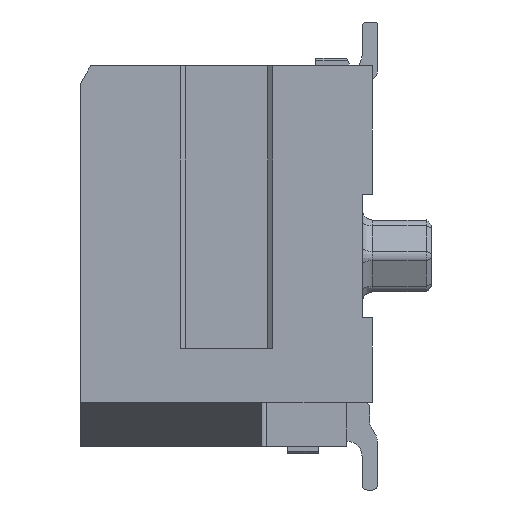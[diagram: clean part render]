
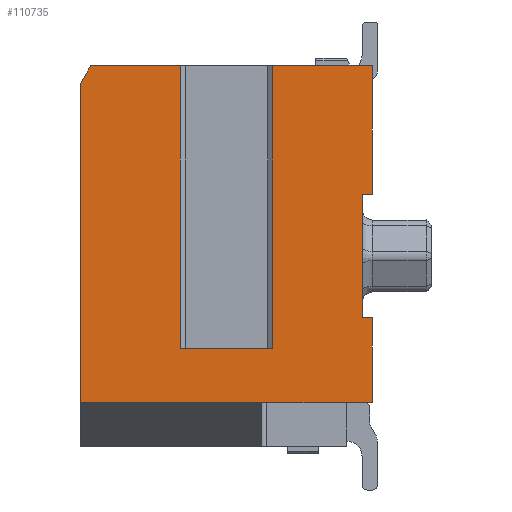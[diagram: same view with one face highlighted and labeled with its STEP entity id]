
A CAD part, left-side view. The second image highlights one B-rep face of the part: STEP entity #110735.
In plain terms, the highlighted planar face has unit normal (-1, 0, 0).
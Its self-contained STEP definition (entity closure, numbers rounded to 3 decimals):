
#31182 = AXIS2_PLACEMENT_3D ( 'NONE', #43996, #43998, #44000 ) ;
#37553 = CARTESIAN_POINT ( 'NONE',  ( -20.309, -1.508, 0.85 ) ) ;
#40349 = CARTESIAN_POINT ( 'NONE',  ( -20.309, -3.658, 0.85 ) ) ;
#43205 = VECTOR ( 'NONE', #50122, 1000. ) ;
#43899 = PLANE ( 'NONE',  #31182 ) ;
#43955 = FACE_OUTER_BOUND ( 'NONE', #81181, .T. ) ;
#43996 = CARTESIAN_POINT ( 'NONE',  ( -20.309, 2.017, 7.4 ) ) ;
#43998 = DIRECTION ( 'NONE',  ( 1., 0., 0. ) ) ;
#44000 = DIRECTION ( 'NONE',  ( 0., 0., -1. ) ) ;
#50089 = CARTESIAN_POINT ( 'NONE',  ( -20.309, 0.117, 0.85 ) ) ;
#50114 = LINE ( 'NONE', #50089, #43205 ) ;
#50122 = DIRECTION ( 'NONE',  ( 0., 1., 0. ) ) ;
#51914 = VECTOR ( 'NONE', #56433, 1000. ) ;
#52815 = VECTOR ( 'NONE', #58807, 1000. ) ;
#52856 = VECTOR ( 'NONE', #58950, 1000. ) ;
#52892 = VECTOR ( 'NONE', #59127, 1000. ) ;
#52896 = VECTOR ( 'NONE', #59144, 1000. ) ;
#52898 = VECTOR ( 'NONE', #59171, 1000. ) ;
#52900 = VECTOR ( 'NONE', #59164, 1000. ) ;
#52902 = VECTOR ( 'NONE', #59189, 1000. ) ;
#52903 = VECTOR ( 'NONE', #59181, 1000. ) ;
#55470 = VERTEX_POINT ( 'NONE', #40349 ) ;
#55805 = VERTEX_POINT ( 'NONE', #37553 ) ;
#56417 = LINE ( 'NONE', #56431, #51914 ) ;
#56431 = CARTESIAN_POINT ( 'NONE',  ( -20.309, -3.458, 7.4 ) ) ;
#56433 = DIRECTION ( 'NONE',  ( 0., 0., -1. ) ) ;
#58801 = LINE ( 'NONE', #58804, #52815 ) ;
#58804 = CARTESIAN_POINT ( 'NONE',  ( -20.309, -3.658, 4.9 ) ) ;
#58807 = DIRECTION ( 'NONE',  ( 0., -1., 0. ) ) ;
#58944 = LINE ( 'NONE', #58947, #52856 ) ;
#58947 = CARTESIAN_POINT ( 'NONE',  ( -20.309, -3.658, 2.5 ) ) ;
#58950 = DIRECTION ( 'NONE',  ( 0., 1., 0. ) ) ;
#59121 = LINE ( 'NONE', #59124, #52892 ) ;
#59122 = LINE ( 'NONE', #59166, #52898 ) ;
#59124 = CARTESIAN_POINT ( 'NONE',  ( -20.309, 0.079, 7.4 ) ) ;
#59127 = DIRECTION ( 'NONE',  ( 0., 0., -1. ) ) ;
#59137 = LINE ( 'NONE', #59141, #52896 ) ;
#59139 = LINE ( 'NONE', #59184, #52902 ) ;
#59141 = CARTESIAN_POINT ( 'NONE',  ( -20.309, 2.017, 1.9 ) ) ;
#59144 = DIRECTION ( 'NONE',  ( 0., -1., 0. ) ) ;
#59156 = LINE ( 'NONE', #59161, #52900 ) ;
#59161 = CARTESIAN_POINT ( 'NONE',  ( -20.309, -1.721, 7.4 ) ) ;
#59164 = DIRECTION ( 'NONE',  ( 0., 0., 1. ) ) ;
#59166 = CARTESIAN_POINT ( 'NONE',  ( -20.309, -3.658, 7.4 ) ) ;
#59171 = DIRECTION ( 'NONE',  ( 0., 0., -1. ) ) ;
#59174 = LINE ( 'NONE', #59179, #52903 ) ;
#59179 = CARTESIAN_POINT ( 'NONE',  ( -20.309, -3.658, 7.4 ) ) ;
#59181 = DIRECTION ( 'NONE',  ( 0., 0., -1. ) ) ;
#59184 = CARTESIAN_POINT ( 'NONE',  ( -20.309, 2.017, 0.85 ) ) ;
#59189 = DIRECTION ( 'NONE',  ( 0., 1., 0. ) ) ;
#69720 = LINE ( 'NONE', #69754, #89682 ) ;
#69737 = LINE ( 'NONE', #69739, #89681 ) ;
#69739 = CARTESIAN_POINT ( 'NONE',  ( -20.309, 2.017, 7.4 ) ) ;
#69741 = DIRECTION ( 'NONE',  ( 0., 0., -1. ) ) ;
#69754 = CARTESIAN_POINT ( 'NONE',  ( -20.309, 1.817, 7.4 ) ) ;
#69757 = DIRECTION ( 'NONE',  ( 0., 0.496, -0.868 ) ) ;
#69856 = LINE ( 'NONE', #69857, #89701 ) ;
#69857 = CARTESIAN_POINT ( 'NONE',  ( -20.309, 2.017, 7.4 ) ) ;
#69859 = DIRECTION ( 'NONE',  ( 0., -1., 0. ) ) ;
#69878 = LINE ( 'NONE', #69880, #89705 ) ;
#69880 = CARTESIAN_POINT ( 'NONE',  ( -20.309, 2.017, 7.4 ) ) ;
#69882 = DIRECTION ( 'NONE',  ( 0., -1., 0. ) ) ;
#79729 = CARTESIAN_POINT ( 'NONE',  ( -20.309, 2.017, 7.05 ) ) ;
#79848 = CARTESIAN_POINT ( 'NONE',  ( -20.309, -1.721, 7.4 ) ) ;
#79903 = CARTESIAN_POINT ( 'NONE',  ( -20.309, 1.817, 7.4 ) ) ;
#80123 = CARTESIAN_POINT ( 'NONE',  ( -20.309, 0.079, 7.4 ) ) ;
#80860 = CARTESIAN_POINT ( 'NONE',  ( -20.309, -3.658, 2.5 ) ) ;
#81181 = EDGE_LOOP ( 'NONE', ( #99333, #99335, #99336, #99338, #99340, #99342, #99343, #99345, #99347, #99349, #99350, #99352, #99354, #99356 ) ) ;
#81206 = CARTESIAN_POINT ( 'NONE',  ( -20.309, -3.458, 4.9 ) ) ;
#81608 = CARTESIAN_POINT ( 'NONE',  ( -20.309, -3.458, 2.5 ) ) ;
#84725 = VERTEX_POINT ( 'NONE', #123991 ) ;
#84797 = VERTEX_POINT ( 'NONE', #124034 ) ;
#85422 = VERTEX_POINT ( 'NONE', #124398 ) ;
#85555 = VERTEX_POINT ( 'NONE', #124476 ) ;
#86154 = VERTEX_POINT ( 'NONE', #124825 ) ;
#86493 = VERTEX_POINT ( 'NONE', #79729 ) ;
#86668 = VERTEX_POINT ( 'NONE', #79848 ) ;
#86718 = VERTEX_POINT ( 'NONE', #79903 ) ;
#86929 = VERTEX_POINT ( 'NONE', #80123 ) ;
#89681 = VECTOR ( 'NONE', #69741, 1000. ) ;
#89682 = VECTOR ( 'NONE', #69757, 1000. ) ;
#89701 = VECTOR ( 'NONE', #69859, 1000. ) ;
#89705 = VECTOR ( 'NONE', #69882, 1000. ) ;
#92030 = VERTEX_POINT ( 'NONE', #80860 ) ;
#92151 = VERTEX_POINT ( 'NONE', #81206 ) ;
#92325 = VERTEX_POINT ( 'NONE', #81608 ) ;
#99333 = ORIENTED_EDGE ( 'NONE', *, *, #99993, .T. ) ;
#99335 = ORIENTED_EDGE ( 'NONE', *, *, #99990, .T. ) ;
#99336 = ORIENTED_EDGE ( 'NONE', *, *, #114868, .F. ) ;
#99338 = ORIENTED_EDGE ( 'NONE', *, *, #103815, .F. ) ;
#99340 = ORIENTED_EDGE ( 'NONE', *, *, #114867, .F. ) ;
#99342 = ORIENTED_EDGE ( 'NONE', *, *, #114841, .T. ) ;
#99343 = ORIENTED_EDGE ( 'NONE', *, *, #114448, .F. ) ;
#99345 = ORIENTED_EDGE ( 'NONE', *, *, #114826, .T. ) ;
#99347 = ORIENTED_EDGE ( 'NONE', *, *, #114866, .F. ) ;
#99349 = ORIENTED_EDGE ( 'NONE', *, *, #100014, .F. ) ;
#99350 = ORIENTED_EDGE ( 'NONE', *, *, #114865, .F. ) ;
#99352 = ORIENTED_EDGE ( 'NONE', *, *, #114863, .F. ) ;
#99354 = ORIENTED_EDGE ( 'NONE', *, *, #114861, .F. ) ;
#99356 = ORIENTED_EDGE ( 'NONE', *, *, #100010, .F. ) ;
#99990 = EDGE_CURVE ( 'NONE', #86493, #85555, #69737, .T. ) ;
#99993 = EDGE_CURVE ( 'NONE', #86718, #86493, #69720, .T. ) ;
#100010 = EDGE_CURVE ( 'NONE', #86718, #86929, #69856, .T. ) ;
#100014 = EDGE_CURVE ( 'NONE', #86668, #86154, #69878, .T. ) ;
#103815 = EDGE_CURVE ( 'NONE', #55470, #55805, #50114, .T. ) ;
#110735 = ADVANCED_FACE ( 'NONE', ( #43955 ), #43899, .F. ) ;
#114448 = EDGE_CURVE ( 'NONE', #92151, #92325, #56417, .T. ) ;
#114826 = EDGE_CURVE ( 'NONE', #92151, #85422, #58801, .T. ) ;
#114841 = EDGE_CURVE ( 'NONE', #92030, #92325, #58944, .T. ) ;
#114861 = EDGE_CURVE ( 'NONE', #86929, #84797, #59121, .T. ) ;
#114863 = EDGE_CURVE ( 'NONE', #84797, #84725, #59137, .T. ) ;
#114865 = EDGE_CURVE ( 'NONE', #84725, #86668, #59156, .T. ) ;
#114866 = EDGE_CURVE ( 'NONE', #86154, #85422, #59122, .T. ) ;
#114867 = EDGE_CURVE ( 'NONE', #92030, #55470, #59174, .T. ) ;
#114868 = EDGE_CURVE ( 'NONE', #55805, #85555, #59139, .T. ) ;
#123991 = CARTESIAN_POINT ( 'NONE',  ( -20.309, -1.721, 1.9 ) ) ;
#124034 = CARTESIAN_POINT ( 'NONE',  ( -20.309, 0.079, 1.9 ) ) ;
#124398 = CARTESIAN_POINT ( 'NONE',  ( -20.309, -3.658, 4.9 ) ) ;
#124476 = CARTESIAN_POINT ( 'NONE',  ( -20.309, 2.017, 0.85 ) ) ;
#124825 = CARTESIAN_POINT ( 'NONE',  ( -20.309, -3.658, 7.4 ) ) ;
